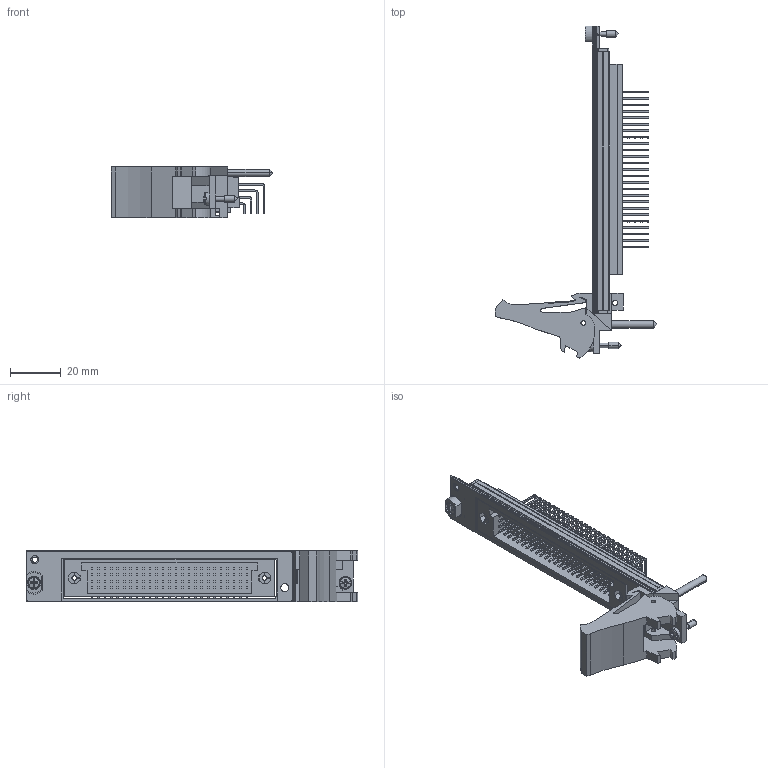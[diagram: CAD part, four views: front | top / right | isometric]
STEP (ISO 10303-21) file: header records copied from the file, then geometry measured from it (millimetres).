
FILE_DESCRIPTION((''),'2;1');
FILE_NAME('CU_PXIE-2527','2009-11-02T',('jjorden'),(''),'PRO/ENGINEER BY PARAMETRIC TECHNOLOGY CORPORATION, 2006080','PRO/ENGINEER BY PARAMETRIC TECHNOLOGY CORPORATION, 2006080','');
FILE_SCHEMA(('CONFIG_CONTROL_DESIGN'));
Length unit declared in the file: inch
Products named in the file (1): CU_PXIE-2527
Bounding box: 63.53 x 130.49 x 20.31 mm (x, y, z)
Volume: 20530.7 mm3; surface area: 24404.5 mm2
Topology: 3 solids, 3 shells, 1806 faces, 4708 edges, 3124 vertices
Faces by surface type: plane 1487, cylinder 297, cone 14, sphere 4, torus 4
Entity records: 54988 total; most frequent: CARTESIAN_POINT 9845, ORIENTED_EDGE 9408, DIRECTION 8947, EDGE_CURVE 4704, VECTOR 4029, LINE 4029, VERTEX_POINT 3124, AXIS2_PLACEMENT_3D 2459
